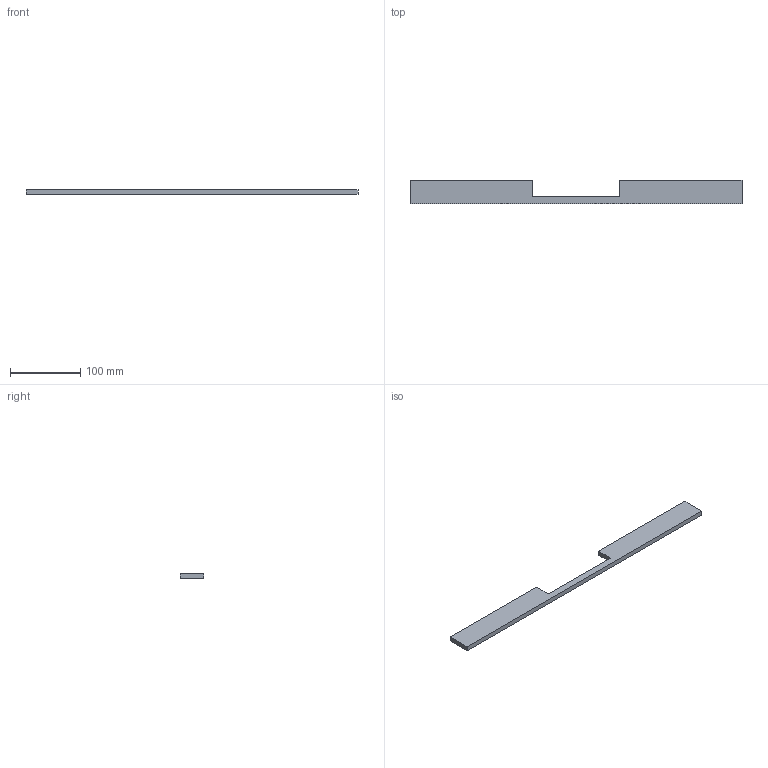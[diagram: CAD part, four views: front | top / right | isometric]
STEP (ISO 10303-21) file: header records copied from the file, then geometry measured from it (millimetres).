
FILE_DESCRIPTION( ( 'STEP AP214' ), '1' );
FILE_NAME( 'D:/D Drive/Yug/2023/ProDecor/Handle_Velitra/QC/115017.stp', '2023-06-05T09:59:09', ( '' ), ( '' ), ' ', 'PARTsolutions', ' ' );
FILE_SCHEMA( ( 'AUTOMOTIVE_DESIGN { 1 0 10303 214 1 1 1 1 }' ) );
Length unit declared in the file: millimetre
Products named in the file (1): _115017
Bounding box: 472 x 34 x 7 mm (x, y, z)
Volume: 90833.3 mm3; surface area: 34018.7 mm2
Topology: 1 solids, 1 shells, 18 faces, 36 edges, 24 vertices
Faces by surface type: plane 14, cylinder 4
Full cylindrical faces by diameter (mm): 4 x4
Entity records: 608 total; most frequent: DIRECTION 78, CARTESIAN_POINT 75, ORIENTED_EDGE 64, EDGE_CURVE 32, AXIS2_PLACEMENT_3D 27, EDGE_LOOP 26, VERTEX_POINT 24, LINE 24
